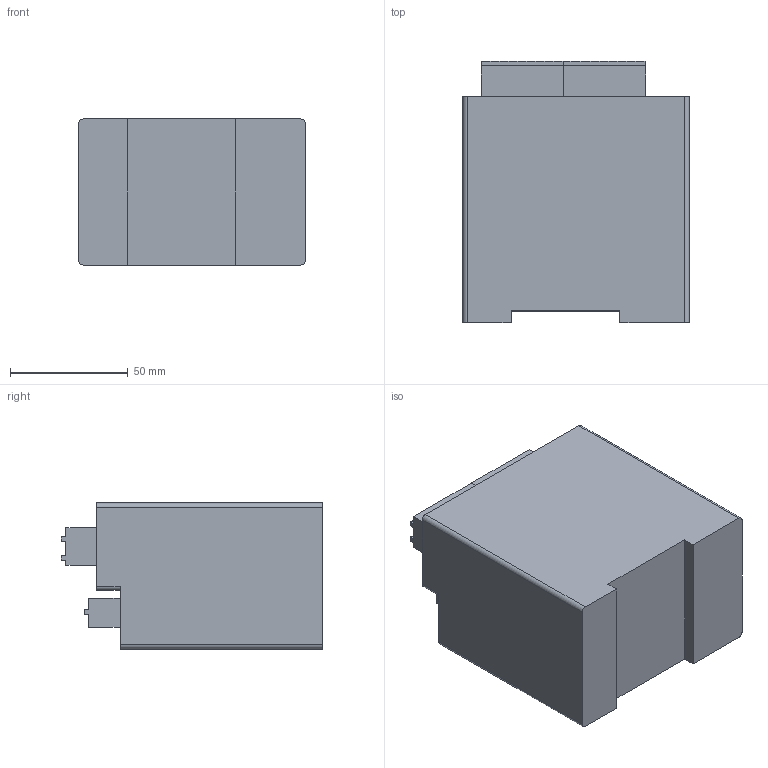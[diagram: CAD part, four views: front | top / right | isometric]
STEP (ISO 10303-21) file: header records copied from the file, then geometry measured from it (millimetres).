
FILE_DESCRIPTION((''),'2;1');
FILE_NAME('8884-20260528_ASM','2026-05-28T',('Administrator'),(''),'PRO/ENGINEER BY PARAMETRIC TECHNOLOGY CORPORATION, 2015240','PRO/ENGINEER BY PARAMETRIC TECHNOLOGY CORPORATION, 2015240','');
FILE_SCHEMA(('CONFIG_CONTROL_DESIGN'));
Products named in the file (11): PRT0001_1; AMP_RJ45_MODULAR_JACK_HOUSING_1; AMP_RJ45_MODULAR_JACK_PIN_1; AMP_RJ45_MODULAR_JACK_SOLDER_PI; AMP_RJ45_MODULAR_JACK_SHIELD_1; ASM0001_ASM_1_ASM; RJ45_MODULAR_JACK_-_AMP_1-40654_ASM; 03_1; 02_1; ASM0002_ASM_3_ASM; 8884-20260528_ASM
Assembly tree (26 placements, depth 5):
  8884-20260528_ASM
    ASM0002_ASM_3_ASM
      PRT0001_1
      RJ45_MODULAR_JACK_-_AMP_1-40654_ASM
        ASM0001_ASM_1_ASM
          AMP_RJ45_MODULAR_JACK_HOUSING_1
          AMP_RJ45_MODULAR_JACK_PIN_1  x8
          AMP_RJ45_MODULAR_JACK_SOLDER_PI  x8
          AMP_RJ45_MODULAR_JACK_SHIELD_1
      03_1  x2
      ASM0001_ASM_1_ASM
        AMP_RJ45_MODULAR_JACK_HOUSING_1
        AMP_RJ45_MODULAR_JACK_PIN_1  x8
        AMP_RJ45_MODULAR_JACK_SOLDER_PI  x8
        AMP_RJ45_MODULAR_JACK_SHIELD_1
      02_1
Bounding box: 96 x 111 x 62 mm (x, y, z)
Volume: 546839.4 mm3; surface area: 67887.4 mm2
Topology: 40 solids, 80 shells, 7580 faces, 21242 edges, 14146 vertices
Faces by surface type: plane 6548, cylinder 926, bspline 76, sphere 22, torus 8
Entity records: 194324 total; most frequent: CARTESIAN_POINT 36945, ORIENTED_EDGE 33910, DIRECTION 30158, EDGE_CURVE 16955, VECTOR 15670, LINE 15670, VERTEX_POINT 11295, AXIS2_PLACEMENT_3D 7244
